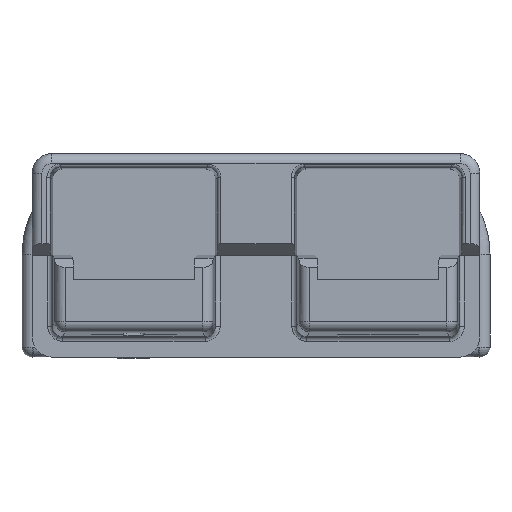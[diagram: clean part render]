
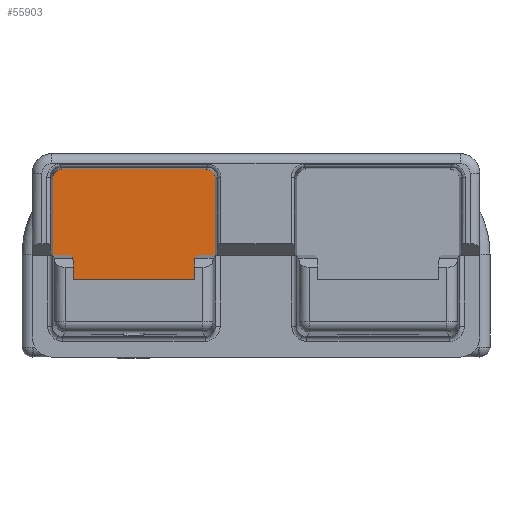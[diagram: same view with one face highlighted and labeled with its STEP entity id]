
A CAD part, front view. The second image highlights one B-rep face of the part: STEP entity #55903.
In plain terms, the highlighted planar face has unit normal (0, -1, 0).
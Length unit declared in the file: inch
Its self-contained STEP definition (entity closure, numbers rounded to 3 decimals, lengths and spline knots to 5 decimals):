
#214 = DIRECTION ( 'NONE',  ( 1., 0., 0. ) ) ;
#1531 = CARTESIAN_POINT ( 'NONE',  ( -0.56963, -0.38582, -0.92131 ) ) ;
#1571 = CARTESIAN_POINT ( 'NONE',  ( -0.59368, -0.38582, -0.58085 ) ) ;
#1985 = EDGE_CURVE ( 'NONE', #74803, #61753, #67167, .T. ) ;
#2015 = VERTEX_POINT ( 'NONE', #22008 ) ;
#6034 = DIRECTION ( 'NONE',  ( -1., 0., 0. ) ) ;
#6176 = EDGE_LOOP ( 'NONE', ( #44759, #42393, #21691, #59456, #48224, #15132, #11654, #49632, #19833, #32190 ) ) ;
#8355 = EDGE_CURVE ( 'NONE', #30709, #25135, #18468, .T. ) ;
#8518 = CARTESIAN_POINT ( 'NONE',  ( -0.6325, -0.38582, -0.84581 ) ) ;
#11654 = ORIENTED_EDGE ( 'NONE', *, *, #25659, .T. ) ;
#13974 = CARTESIAN_POINT ( 'NONE',  ( -0.56963, -0.38582, -0.84581 ) ) ;
#15132 = ORIENTED_EDGE ( 'NONE', *, *, #8355, .T. ) ;
#16744 = FACE_OUTER_BOUND ( 'NONE', #6176, .T. ) ;
#17023 = VECTOR ( 'NONE', #6034, 39.37008 ) ;
#17924 = CARTESIAN_POINT ( 'NONE',  ( -0.18037, -0.38582, -0.92131 ) ) ;
#18468 = LINE ( 'NONE', #49974, #17023 ) ;
#18817 = CARTESIAN_POINT ( 'NONE',  ( -0.12507, -0.38582, -0.6121 ) ) ;
#19833 = ORIENTED_EDGE ( 'NONE', *, *, #75406, .T. ) ;
#20221 = DIRECTION ( 'NONE',  ( 0., 0., -1. ) ) ;
#21225 = VERTEX_POINT ( 'NONE', #73938 ) ;
#21691 = ORIENTED_EDGE ( 'NONE', *, *, #65078, .T. ) ;
#22008 = CARTESIAN_POINT ( 'NONE',  ( -0.12507, -0.38582, -0.6121 ) ) ;
#25135 = VERTEX_POINT ( 'NONE', #1571 ) ;
#25273 = EDGE_CURVE ( 'NONE', #35017, #21225, #69957, .T. ) ;
#25659 = EDGE_CURVE ( 'NONE', #25135, #35017, #44447, .T. ) ;
#26548 = CARTESIAN_POINT ( 'NONE',  ( -0.56963, -0.38582, -0.84581 ) ) ;
#27255 = LINE ( 'NONE', #38897, #52642 ) ;
#30709 = VERTEX_POINT ( 'NONE', #41790 ) ;
#32066 = CARTESIAN_POINT ( 'NONE',  ( -0.13801, -0.38582, -0.58085 ) ) ;
#32190 = ORIENTED_EDGE ( 'NONE', *, *, #34561, .F. ) ;
#32367 = CARTESIAN_POINT ( 'NONE',  ( -0.59368, -0.38582, -0.58085 ) ) ;
#32699 = VECTOR ( 'NONE', #214, 39.37008 ) ;
#33140 = CARTESIAN_POINT ( 'NONE',  ( -0.18037, -0.38582, -0.84581 ) ) ;
#33885 = VECTOR ( 'NONE', #73374, 39.37008 ) ;
#34561 = EDGE_CURVE ( 'NONE', #61753, #81585, #64138, .T. ) ;
#35017 = VERTEX_POINT ( 'NONE', #45314 ) ;
#37036 = DIRECTION ( 'NONE',  ( 0., -1., 0. ) ) ;
#37057 = CARTESIAN_POINT ( 'NONE',  ( -0.12507, -0.38582, -0.59379 ) ) ;
#38692 = EDGE_CURVE ( 'NONE', #74803, #71720, #42641, .T. ) ;
#38897 = CARTESIAN_POINT ( 'NONE',  ( -0.12507, -0.38582, -0.84581 ) ) ;
#39154 = VECTOR ( 'NONE', #64542, 39.37008 ) ;
#41790 = CARTESIAN_POINT ( 'NONE',  ( -0.15632, -0.38582, -0.58085 ) ) ;
#42393 = ORIENTED_EDGE ( 'NONE', *, *, #38692, .T. ) ;
#42582 = EDGE_CURVE ( 'NONE', #2015, #30709, #55580, .T. ) ;
#42641 = LINE ( 'NONE', #67501, #48610 ) ;
#43176 = CARTESIAN_POINT ( 'NONE',  ( -0.62493, -0.38582, -0.6121 ) ) ;
#44106 = CARTESIAN_POINT ( 'NONE',  ( -0.15632, -0.38582, -0.58085 ) ) ;
#44447 =( BOUNDED_CURVE ( )  B_SPLINE_CURVE ( 3, ( #32367, #49388, #69260, #43176 ),
 .UNSPECIFIED., .F., .F. ) 
 B_SPLINE_CURVE_WITH_KNOTS ( ( 4, 4 ),
 ( 2.15884, 3.72952 ),
 .UNSPECIFIED. ) 
 CURVE ( )  GEOMETRIC_REPRESENTATION_ITEM ( )  RATIONAL_B_SPLINE_CURVE ( ( 1., 0.805, 0.805, 1. ) ) 
 REPRESENTATION_ITEM ( '' )  );
#44759 = ORIENTED_EDGE ( 'NONE', *, *, #1985, .F. ) ;
#45314 = CARTESIAN_POINT ( 'NONE',  ( -0.62493, -0.38582, -0.6121 ) ) ;
#48224 = ORIENTED_EDGE ( 'NONE', *, *, #42582, .T. ) ;
#48610 = VECTOR ( 'NONE', #81164, 39.37008 ) ;
#49388 = CARTESIAN_POINT ( 'NONE',  ( -0.61199, -0.38582, -0.58085 ) ) ;
#49626 = CARTESIAN_POINT ( 'NONE',  ( -0.12507, -0.38582, -0.84581 ) ) ;
#49632 = ORIENTED_EDGE ( 'NONE', *, *, #25273, .T. ) ;
#49951 = LINE ( 'NONE', #81846, #32699 ) ;
#49974 = CARTESIAN_POINT ( 'NONE',  ( -0.6325, -0.38582, -0.58085 ) ) ;
#51737 = CARTESIAN_POINT ( 'NONE',  ( -0.62493, -0.38582, -0.84581 ) ) ;
#52557 = DIRECTION ( 'NONE',  ( 0., 0., 1. ) ) ;
#52642 = VECTOR ( 'NONE', #52557, 39.37008 ) ;
#55291 = CARTESIAN_POINT ( 'NONE',  ( -0.6325, -0.38582, -0.84581 ) ) ;
#55580 =( BOUNDED_CURVE ( )  B_SPLINE_CURVE ( 3, ( #18817, #37057, #32066, #44106 ),
 .UNSPECIFIED., .F., .F. ) 
 B_SPLINE_CURVE_WITH_KNOTS ( ( 4, 4 ),
 ( 2.55366, 4.12434 ),
 .UNSPECIFIED. ) 
 CURVE ( )  GEOMETRIC_REPRESENTATION_ITEM ( )  RATIONAL_B_SPLINE_CURVE ( ( 1., 0.805, 0.805, 1. ) ) 
 REPRESENTATION_ITEM ( '' )  );
#55903 = ADVANCED_FACE ( 'NONE', ( #16744 ), #80969, .T. ) ;
#56033 = VECTOR ( 'NONE', #20221, 39.37008 ) ;
#58901 = CARTESIAN_POINT ( 'NONE',  ( -0.59324, -0.38582, -0.92131 ) ) ;
#59456 = ORIENTED_EDGE ( 'NONE', *, *, #78096, .T. ) ;
#60887 = VERTEX_POINT ( 'NONE', #49626 ) ;
#61753 = VERTEX_POINT ( 'NONE', #1531 ) ;
#64138 = LINE ( 'NONE', #13974, #39154 ) ;
#64542 = DIRECTION ( 'NONE',  ( 0., 0., 1. ) ) ;
#64910 = DIRECTION ( 'NONE',  ( 1., 0., 0. ) ) ;
#65078 = EDGE_CURVE ( 'NONE', #71720, #60887, #66533, .T. ) ;
#66533 = LINE ( 'NONE', #8518, #76296 ) ;
#67167 = LINE ( 'NONE', #58901, #33885 ) ;
#67302 = DIRECTION ( 'NONE',  ( 0., 0., -1. ) ) ;
#67501 = CARTESIAN_POINT ( 'NONE',  ( -0.18037, -0.38582, -0.84581 ) ) ;
#69260 = CARTESIAN_POINT ( 'NONE',  ( -0.62493, -0.38582, -0.59379 ) ) ;
#69957 = LINE ( 'NONE', #51737, #56033 ) ;
#71720 = VERTEX_POINT ( 'NONE', #33140 ) ;
#73374 = DIRECTION ( 'NONE',  ( -1., 0., 0. ) ) ;
#73938 = CARTESIAN_POINT ( 'NONE',  ( -0.62493, -0.38582, -0.84581 ) ) ;
#74803 = VERTEX_POINT ( 'NONE', #17924 ) ;
#75406 = EDGE_CURVE ( 'NONE', #21225, #81585, #49951, .T. ) ;
#76296 = VECTOR ( 'NONE', #64910, 39.37008 ) ;
#78096 = EDGE_CURVE ( 'NONE', #60887, #2015, #27255, .T. ) ;
#80969 = PLANE ( 'NONE',  #81201 ) ;
#81164 = DIRECTION ( 'NONE',  ( 0., 0., 1. ) ) ;
#81201 = AXIS2_PLACEMENT_3D ( 'NONE', #55291, #37036, #67302 ) ;
#81585 = VERTEX_POINT ( 'NONE', #26548 ) ;
#81846 = CARTESIAN_POINT ( 'NONE',  ( -0.6325, -0.38582, -0.84581 ) ) ;
